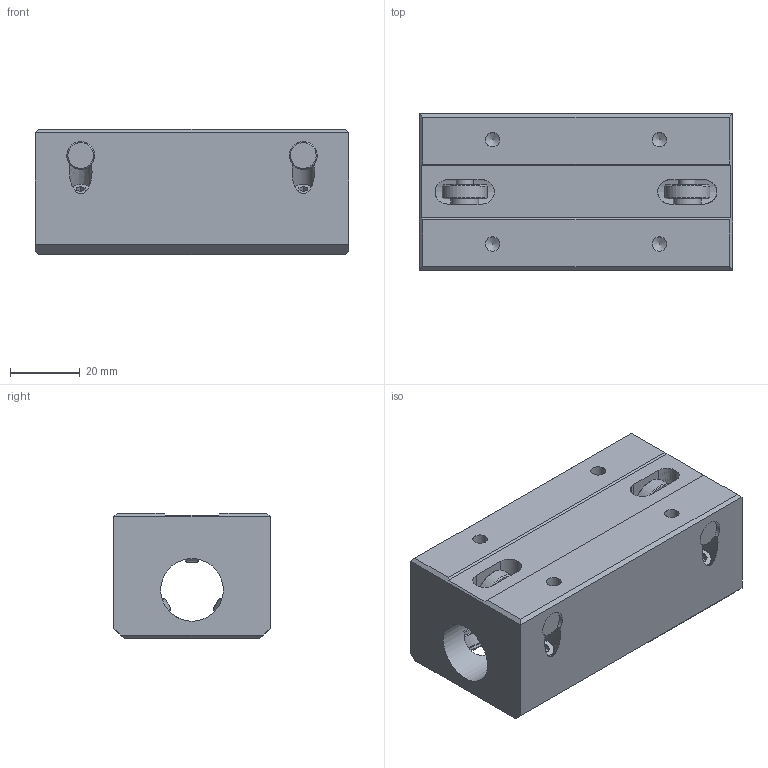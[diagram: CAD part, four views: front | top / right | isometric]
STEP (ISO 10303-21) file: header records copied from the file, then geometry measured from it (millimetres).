
FILE_DESCRIPTION((''),'2;1');
FILE_NAME('D:\製品 (図面)\カタログ用3D\リニアガイド関連\STEP形式\SLHW\SLHW16.stp','2010-06-02T17:07:11',('Tsuchiya'),(''),'Autodesk Inventor 10','Autodesk Inventor 10','');
FILE_SCHEMA(('AUTOMOTIVE_DESIGN { 1 0 10303 214 1 1 1 1 }'));
Length unit declared in the file: millimetre
Products named in the file (1): SLHW16
Bounding box: 90 x 45 x 36 mm (x, y, z)
Volume: 112799.1 mm3; surface area: 28102.6 mm2
Topology: 1 solids, 1 shells, 177 faces, 415 edges, 266 vertices
Faces by surface type: bspline 73, plane 56, cylinder 25, cone 20, torus 3
Full cylindrical faces by diameter (mm): 4.134 x2, 5 x3, 5.5 x3, 6.5 x3, 8 x3, 13 x3, 15 x2, 18 x1
Entity records: 5430 total; most frequent: CARTESIAN_POINT 2123, ORIENTED_EDGE 616, DIRECTION 584, EDGE_CURVE 308, EDGE_LOOP 294, VERTEX_POINT 232, AXIS2_PLACEMENT_3D 223, FACE_OUTER_BOUND 177
